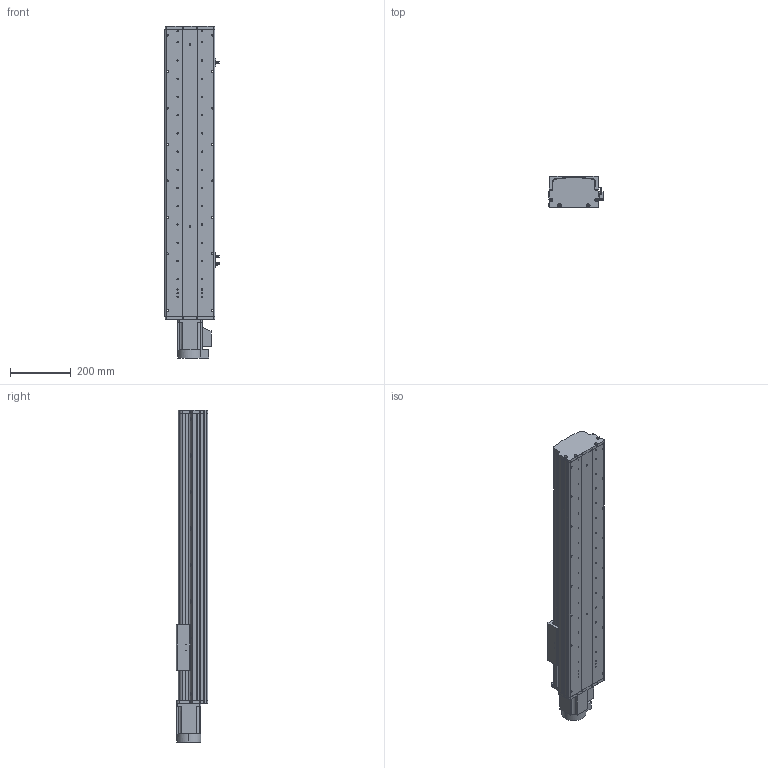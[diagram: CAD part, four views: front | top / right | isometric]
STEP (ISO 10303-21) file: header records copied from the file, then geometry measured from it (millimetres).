
FILE_DESCRIPTION (( 'STEP AP214' ), '1' );
FILE_NAME ('KSD165S-S650-MN-CM .STEP', '2017-08-07T08:13:23', ( '微软用户' ), ( '微软中国' ), 'SwSTEP 2.0', 'SolidWorks 2014', '' );
FILE_SCHEMA (( 'AUTOMOTIVE_DESIGN' ));
Length unit declared in the file: millimetre
Products named in the file (12): KSD165模组-防尘盖1-650行程-直连不带电机座; KSD165模组底板-650行程-直连不带电机座; 拸秶雄ん750W侜督萇儂; KSD165模组-直连不带电机座电机连接板; KSD165耀郪-佪裝-滅袉菜-3 -; C44ㄜ1912WP; 覜茼え68遵圉猾敕; U倰嫖萇假蚾璃; U倰嫖萇EEㄜSX672; KSD165耀郪-綴傷啣1; KSD165模组-丝杆滑动座-最新版; KSD165S-S650-MN-CM  
Assembly tree (15 placements, depth 2):
  KSD165S-S650-MN-CM  
    KSD165模组-丝杆滑动座-最新版
    KSD165耀郪-綴傷啣1
    U倰嫖萇EEㄜSX672  x3
    U倰嫖萇假蚾璃  x3
    覜茼え68遵圉猾敕
    C44ㄜ1912WP
    KSD165耀郪-佪裝-滅袉菜-3 -
    KSD165模组-直连不带电机座电机连接板
    拸秶雄ん750W侜督萇儂
    KSD165模组底板-650行程-直连不带电机座
    KSD165模组-防尘盖1-650行程-直连不带电机座
Bounding box: 178.7 x 104 x 1093 mm (x, y, z)
Volume: 6289190 mm3; surface area: 1377484.1 mm2
Topology: 16 solids, 16 shells, 1205 faces, 3370 edges, 2185 vertices
Faces by surface type: cylinder 635, plane 493, cone 77
Entity records: 37967 total; most frequent: CARTESIAN_POINT 8487, DIRECTION 5643, ORIENTED_EDGE 5420, EDGE_CURVE 2710, AXIS2_PLACEMENT_3D 2117, VERTEX_POINT 1777, VECTOR 1409, LINE 1409
